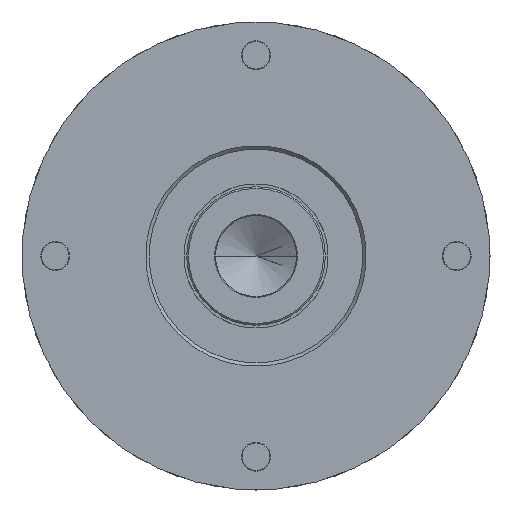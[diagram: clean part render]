
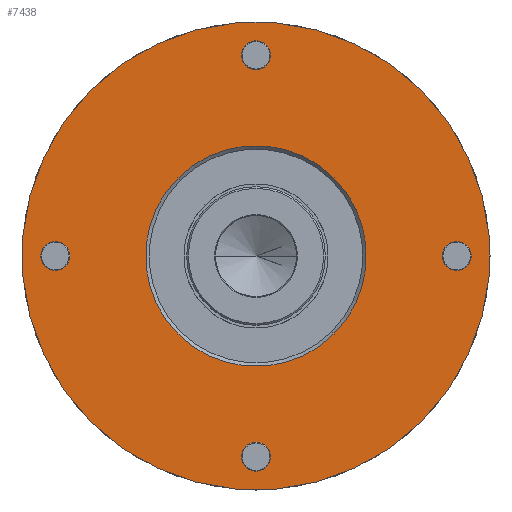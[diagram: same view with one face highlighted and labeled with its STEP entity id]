
A CAD part, left-side view. The second image highlights one B-rep face of the part: STEP entity #7438.
In plain terms, the highlighted planar face has unit normal (-1, 0, 0).
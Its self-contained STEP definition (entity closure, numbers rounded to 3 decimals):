
#6747=CARTESIAN_POINT('',(0.,0.,0.));
#6748=DIRECTION('',(-1.,0.,0.));
#6749=DIRECTION('',(0.,1.,0.));
#6750=AXIS2_PLACEMENT_3D('',#6747,#6748,#6749);
#6755=CARTESIAN_POINT('',(0.,0.,0.));
#6756=DIRECTION('',(1.,0.,0.));
#6757=DIRECTION('',(0.,1.,0.));
#6758=AXIS2_PLACEMENT_3D('',#6755,#6756,#6757);
#6763=CARTESIAN_POINT('',(0.,0.,0.));
#6764=DIRECTION('',(-1.,0.,0.));
#6765=DIRECTION('',(0.,-1.,0.));
#6766=AXIS2_PLACEMENT_3D('',#6763,#6764,#6765);
#6771=CARTESIAN_POINT('',(0.,0.,0.));
#6772=DIRECTION('',(-1.,0.,0.));
#6773=DIRECTION('',(0.,1.,0.));
#6774=AXIS2_PLACEMENT_3D('',#6771,#6772,#6773);
#6779=CARTESIAN_POINT('',(0.,24.572,-24.572));
#6780=DIRECTION('',(1.,0.,0.));
#6781=DIRECTION('',(0.,-1.,0.));
#6782=AXIS2_PLACEMENT_3D('',#6779,#6780,#6781);
#6787=CARTESIAN_POINT('',(0.,24.572,-24.572));
#6788=DIRECTION('',(1.,0.,0.));
#6789=DIRECTION('',(0.,1.,0.));
#6790=AXIS2_PLACEMENT_3D('',#6787,#6788,#6789);
#6795=CARTESIAN_POINT('',(0.,-24.572,-24.572));
#6796=DIRECTION('',(1.,0.,0.));
#6797=DIRECTION('',(0.,-1.,0.));
#6798=AXIS2_PLACEMENT_3D('',#6795,#6796,#6797);
#6803=CARTESIAN_POINT('',(0.,-24.572,-24.572));
#6804=DIRECTION('',(1.,0.,0.));
#6805=DIRECTION('',(0.,1.,0.));
#6806=AXIS2_PLACEMENT_3D('',#6803,#6804,#6805);
#6811=CARTESIAN_POINT('',(0.,-24.572,24.572));
#6812=DIRECTION('',(1.,0.,0.));
#6813=DIRECTION('',(0.,-1.,0.));
#6814=AXIS2_PLACEMENT_3D('',#6811,#6812,#6813);
#6819=CARTESIAN_POINT('',(0.,-24.572,24.572));
#6820=DIRECTION('',(1.,0.,0.));
#6821=DIRECTION('',(0.,1.,0.));
#6822=AXIS2_PLACEMENT_3D('',#6819,#6820,#6821);
#6827=CARTESIAN_POINT('',(0.,24.572,24.572));
#6828=DIRECTION('',(1.,0.,0.));
#6829=DIRECTION('',(0.,-1.,0.));
#6830=AXIS2_PLACEMENT_3D('',#6827,#6828,#6829);
#6835=CARTESIAN_POINT('',(0.,24.572,24.572));
#6836=DIRECTION('',(1.,0.,0.));
#6837=DIRECTION('',(0.,1.,0.));
#6838=AXIS2_PLACEMENT_3D('',#6835,#6836,#6837);
#7035=CARTESIAN_POINT('',(0.,40.5,0.));
#7036=CARTESIAN_POINT('',(0.,-40.5,0.));
#7037=VERTEX_POINT('',#7035);
#7038=VERTEX_POINT('',#7036);
#7079=CARTESIAN_POINT('',(0.,22.072,-24.572));
#7080=CARTESIAN_POINT('',(0.,27.072,-24.572));
#7081=VERTEX_POINT('',#7079);
#7082=VERTEX_POINT('',#7080);
#7083=CARTESIAN_POINT('',(0.,-27.072,-24.572));
#7084=CARTESIAN_POINT('',(0.,-22.072,-24.572));
#7085=VERTEX_POINT('',#7083);
#7086=VERTEX_POINT('',#7084);
#7087=CARTESIAN_POINT('',(0.,-27.072,24.572));
#7088=CARTESIAN_POINT('',(0.,-22.072,24.572));
#7089=VERTEX_POINT('',#7087);
#7090=VERTEX_POINT('',#7088);
#7091=CARTESIAN_POINT('',(0.,22.072,24.572));
#7092=CARTESIAN_POINT('',(0.,27.072,24.572));
#7093=VERTEX_POINT('',#7091);
#7094=VERTEX_POINT('',#7092);
#7103=CARTESIAN_POINT('',(0.,-19.1,0.));
#7104=CARTESIAN_POINT('',(0.,19.1,0.));
#7105=VERTEX_POINT('',#7103);
#7106=VERTEX_POINT('',#7104);
#7401=CARTESIAN_POINT('',(0.,0.,0.));
#7402=DIRECTION('',(1.,0.,0.));
#7403=DIRECTION('',(0.,-1.,0.));
#7404=AXIS2_PLACEMENT_3D('',#7401,#7402,#7403);
#7405=PLANE('',#7404);
#7406=ORIENTED_EDGE('',*,*,#7368,.F.);
#7407=ORIENTED_EDGE('',*,*,#7383,.T.);
#7408=EDGE_LOOP('',(#7406,#7407));
#7409=FACE_OUTER_BOUND('',#7408,.F.);
#7410=ORIENTED_EDGE('',*,*,#7139,.T.);
#7411=ORIENTED_EDGE('',*,*,#7154,.T.);
#7412=EDGE_LOOP('',(#7410,#7411));
#7413=FACE_BOUND('',#7412,.F.);
#7415=ORIENTED_EDGE('',*,*,#7414,.F.);
#7417=ORIENTED_EDGE('',*,*,#7416,.F.);
#7418=EDGE_LOOP('',(#7415,#7417));
#7419=FACE_BOUND('',#7418,.F.);
#7421=ORIENTED_EDGE('',*,*,#7420,.F.);
#7423=ORIENTED_EDGE('',*,*,#7422,.F.);
#7424=EDGE_LOOP('',(#7421,#7423));
#7425=FACE_BOUND('',#7424,.F.);
#7427=ORIENTED_EDGE('',*,*,#7426,.F.);
#7429=ORIENTED_EDGE('',*,*,#7428,.F.);
#7430=EDGE_LOOP('',(#7427,#7429));
#7431=FACE_BOUND('',#7430,.F.);
#7433=ORIENTED_EDGE('',*,*,#7432,.F.);
#7435=ORIENTED_EDGE('',*,*,#7434,.F.);
#7436=EDGE_LOOP('',(#7433,#7435));
#7437=FACE_BOUND('',#7436,.F.);
#6751=CIRCLE('',#6750,40.5);
#6759=CIRCLE('',#6758,40.5);
#6767=CIRCLE('',#6766,19.1);
#6775=CIRCLE('',#6774,19.1);
#6783=CIRCLE('',#6782,2.5);
#6791=CIRCLE('',#6790,2.5);
#6799=CIRCLE('',#6798,2.5);
#6807=CIRCLE('',#6806,2.5);
#6815=CIRCLE('',#6814,2.5);
#6823=CIRCLE('',#6822,2.5);
#6831=CIRCLE('',#6830,2.5);
#6839=CIRCLE('',#6838,2.5);
#7139=EDGE_CURVE('',#7105,#7106,#6767,.T.);
#7154=EDGE_CURVE('',#7106,#7105,#6775,.T.);
#7368=EDGE_CURVE('',#7037,#7038,#6751,.T.);
#7383=EDGE_CURVE('',#7037,#7038,#6759,.T.);
#7414=EDGE_CURVE('',#7081,#7082,#6783,.T.);
#7416=EDGE_CURVE('',#7082,#7081,#6791,.T.);
#7420=EDGE_CURVE('',#7085,#7086,#6799,.T.);
#7422=EDGE_CURVE('',#7086,#7085,#6807,.T.);
#7426=EDGE_CURVE('',#7089,#7090,#6815,.T.);
#7428=EDGE_CURVE('',#7090,#7089,#6823,.T.);
#7432=EDGE_CURVE('',#7093,#7094,#6831,.T.);
#7434=EDGE_CURVE('',#7094,#7093,#6839,.T.);
#7438=ADVANCED_FACE('',(#7409,#7413,#7419,#7425,#7431,#7437),#7405,.F.);
